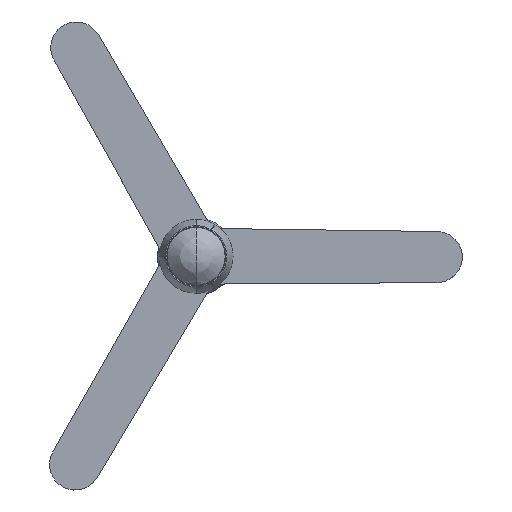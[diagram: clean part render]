
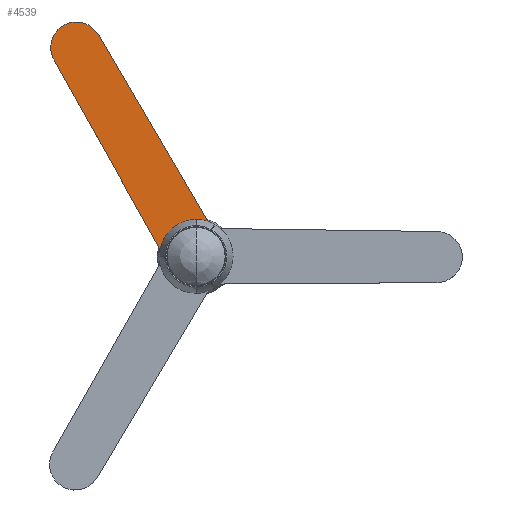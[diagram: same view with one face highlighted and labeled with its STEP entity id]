
A CAD part, top view. The second image highlights one B-rep face of the part: STEP entity #4539.
In plain terms, the highlighted planar face has unit normal (0, 0.001, 1).
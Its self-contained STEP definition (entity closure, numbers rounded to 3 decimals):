
#369=CIRCLE('',#4871,43.042);
#626=FACE_OUTER_BOUND('',#897,.T.);
#897=EDGE_LOOP('',(#3454,#3455,#3456,#3457));
#1257=LINE('',#6814,#1607);
#1262=LINE('',#6828,#1612);
#1265=LINE('',#6833,#1615);
#1607=VECTOR('',#5633,304.8);
#1612=VECTOR('',#5646,304.8);
#1615=VECTOR('',#5651,304.8);
#1933=VERTEX_POINT('',#6812);
#1934=VERTEX_POINT('',#6813);
#1937=VERTEX_POINT('',#6821);
#1939=VERTEX_POINT('',#6827);
#2475=EDGE_CURVE('',#1933,#1934,#1257,.T.);
#2479=EDGE_CURVE('',#1937,#1933,#369,.T.);
#2482=EDGE_CURVE('',#1939,#1937,#1262,.T.);
#2485=EDGE_CURVE('',#1934,#1939,#1265,.T.);
#3454=ORIENTED_EDGE('',*,*,#2485,.T.);
#3455=ORIENTED_EDGE('',*,*,#2482,.T.);
#3456=ORIENTED_EDGE('',*,*,#2479,.T.);
#3457=ORIENTED_EDGE('',*,*,#2475,.T.);
#4365=PLANE('',#4876);
#4539=ADVANCED_FACE('',(#626),#4365,.T.);
#4871=AXIS2_PLACEMENT_3D('',#6822,#5639,#5640);
#4876=AXIS2_PLACEMENT_3D('',#6836,#5655,#5656);
#5633=DIRECTION('',(0.488,-0.873,0.));
#5639=DIRECTION('center_axis',(0.,0.,1.));
#5640=DIRECTION('ref_axis',(0.503,0.864,0.));
#5646=DIRECTION('',(-0.506,0.863,0.));
#5651=DIRECTION('',(0.868,0.497,0.));
#5655=DIRECTION('center_axis',(0.,0.,1.));
#5656=DIRECTION('ref_axis',(0.868,0.497,0.));
#6812=CARTESIAN_POINT('',(-237.607,327.799,190.));
#6813=CARTESIAN_POINT('',(-55.063,1.664,190.));
#6814=CARTESIAN_POINT('',(-237.607,327.799,190.));
#6821=CARTESIAN_POINT('',(-164.219,372.762,190.));
#6822=CARTESIAN_POINT('Origin',(-201.355,351.002,190.));
#6827=CARTESIAN_POINT('',(26.019,48.098,190.));
#6828=CARTESIAN_POINT('',(26.019,48.098,190.));
#6833=CARTESIAN_POINT('',(-55.063,1.664,190.));
#6836=CARTESIAN_POINT('Origin',(-54.934,1.738,190.));
